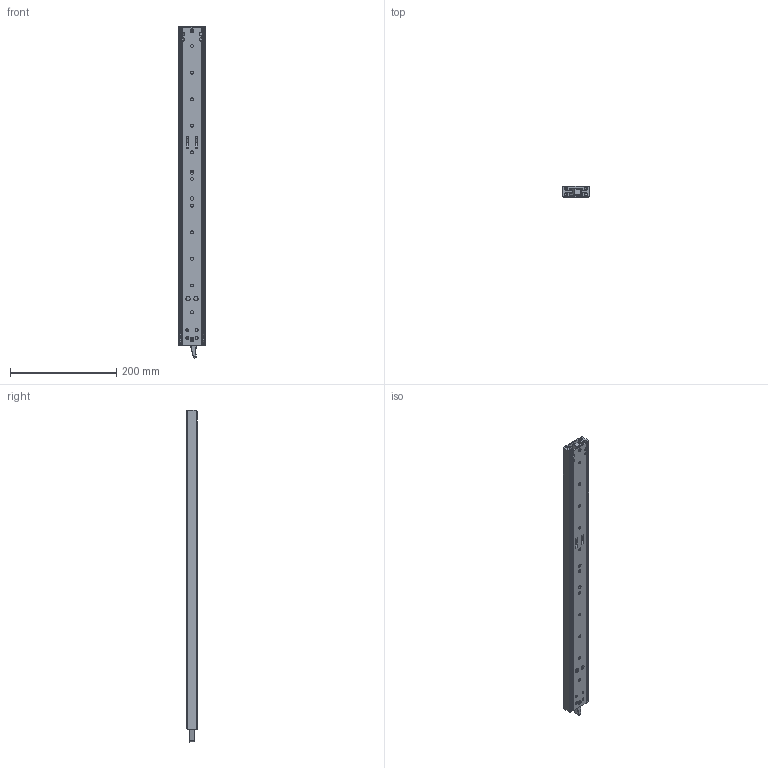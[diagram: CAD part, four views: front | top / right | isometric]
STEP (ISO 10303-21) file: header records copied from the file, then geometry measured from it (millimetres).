
FILE_DESCRIPTION (( 'STEP AP214' ), '1' );
FILE_NAME ('230-600-closed.STEP', '2024-09-24T14:28:09', ( '' ), ( '' ), 'SwSTEP 2.0', 'SolidWorks 2024', '' );
FILE_SCHEMA (( 'AUTOMOTIVE_DESIGN' ));
Length unit declared in the file: millimetre
Products named in the file (11): 400_000_004_Part87; 61_13331_Pin Fitted_Part80; 230-600-closed; 61_12282_Part81; 370_002_070_Part85; 61_12274_Part84; 61_12275_Part83; 301_000_008_Fitted_Part82; 61_12279_14_Part78; 61_12278_20_Part88; 61_12280_14_Beam Assembled - Stop Raises _Part79
Assembly tree (26 placements, depth 2):
  230-600-closed
    61_12279_14_Part78
    61_12280_14_Beam Assembled - Stop Raises _Part79  x2
    61_13331_Pin Fitted_Part80  x4
    61_12282_Part81
    301_000_008_Fitted_Part82  x2
    61_12275_Part83
    61_12274_Part84
    370_002_070_Part85  x2
    400_000_004_Part87  x8
    61_12278_20_Part88  x4
Bounding box: 50.7 x 19.7 x 623.69 mm (x, y, z)
Volume: 347047.7 mm3; surface area: 239816.7 mm2
Topology: 26 solids, 26 shells, 1344 faces, 3629 edges, 2363 vertices
Faces by surface type: cylinder 628, plane 313, sphere 185, cone 96, torus 77, bspline 45
Entity records: 28159 total; most frequent: CARTESIAN_POINT 7585, DIRECTION 4404, ORIENTED_EDGE 4138, EDGE_CURVE 2069, AXIS2_PLACEMENT_3D 1762, VERTEX_POINT 1318, EDGE_LOOP 997, CIRCLE 960
